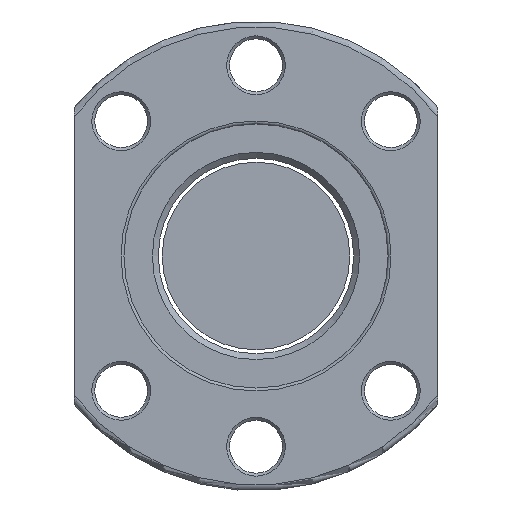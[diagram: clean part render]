
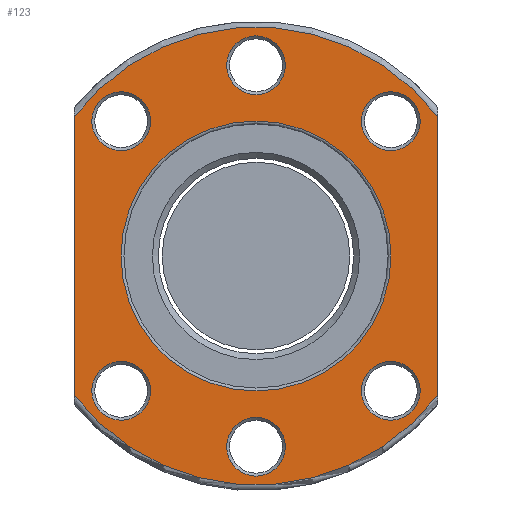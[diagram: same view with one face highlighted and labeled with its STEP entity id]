
A CAD part, front view. The second image highlights one B-rep face of the part: STEP entity #123.
In plain terms, the highlighted planar face has unit normal (0, -1, 0).
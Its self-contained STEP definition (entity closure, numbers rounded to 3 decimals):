
#54=LINE('',#924,#62);
#58=LINE('',#1046,#66);
#62=VECTOR('',#738,1.);
#66=VECTOR('',#780,1.);
#94=PLANE('',#675);
#123=ADVANCED_FACE('',(#188,#189,#190,#191,#192,#193,#194,#195),#94,.F.);
#188=FACE_BOUND('',#272,.T.);
#189=FACE_BOUND('',#273,.T.);
#190=FACE_BOUND('',#274,.T.);
#191=FACE_BOUND('',#275,.T.);
#192=FACE_BOUND('',#276,.T.);
#193=FACE_BOUND('',#277,.T.);
#194=FACE_BOUND('',#278,.T.);
#195=FACE_BOUND('',#279,.T.);
#272=EDGE_LOOP('',(#383));
#273=EDGE_LOOP('',(#384));
#274=EDGE_LOOP('',(#385));
#275=EDGE_LOOP('',(#386));
#276=EDGE_LOOP('',(#387));
#277=EDGE_LOOP('',(#388));
#278=EDGE_LOOP('',(#389));
#279=EDGE_LOOP('',(#390,#391,#392,#393));
#383=ORIENTED_EDGE('',*,*,#556,.T.);
#384=ORIENTED_EDGE('',*,*,#557,.T.);
#385=ORIENTED_EDGE('',*,*,#558,.T.);
#386=ORIENTED_EDGE('',*,*,#559,.T.);
#387=ORIENTED_EDGE('',*,*,#560,.T.);
#388=ORIENTED_EDGE('',*,*,#561,.T.);
#389=ORIENTED_EDGE('',*,*,#562,.T.);
#390=ORIENTED_EDGE('',*,*,#540,.F.);
#391=ORIENTED_EDGE('',*,*,#563,.T.);
#392=ORIENTED_EDGE('',*,*,#519,.F.);
#393=ORIENTED_EDGE('',*,*,#564,.T.);
#464=VERTEX_POINT('',#925);
#465=VERTEX_POINT('',#926);
#482=VERTEX_POINT('',#1045);
#483=VERTEX_POINT('',#1047);
#495=VERTEX_POINT('',#1123);
#496=VERTEX_POINT('',#1125);
#497=VERTEX_POINT('',#1127);
#498=VERTEX_POINT('',#1129);
#499=VERTEX_POINT('',#1131);
#500=VERTEX_POINT('',#1133);
#501=VERTEX_POINT('',#1135);
#519=EDGE_CURVE('',#464,#465,#54,.T.);
#540=EDGE_CURVE('',#482,#483,#58,.T.);
#556=EDGE_CURVE('',#495,#495,#603,.T.);
#557=EDGE_CURVE('',#496,#496,#604,.T.);
#558=EDGE_CURVE('',#497,#497,#605,.T.);
#559=EDGE_CURVE('',#498,#498,#606,.T.);
#560=EDGE_CURVE('',#499,#499,#607,.T.);
#561=EDGE_CURVE('',#500,#500,#608,.T.);
#562=EDGE_CURVE('',#501,#501,#609,.T.);
#563=EDGE_CURVE('',#482,#465,#610,.T.);
#564=EDGE_CURVE('',#464,#483,#611,.T.);
#603=CIRCLE('',#666,23.);
#604=CIRCLE('',#667,5.);
#605=CIRCLE('',#668,5.);
#606=CIRCLE('',#669,5.);
#607=CIRCLE('',#670,5.);
#608=CIRCLE('',#671,5.);
#609=CIRCLE('',#672,5.);
#610=CIRCLE('',#673,39.);
#611=CIRCLE('',#674,39.);
#666=AXIS2_PLACEMENT_3D('',#1122,#810,#811);
#667=AXIS2_PLACEMENT_3D('',#1124,#812,#813);
#668=AXIS2_PLACEMENT_3D('',#1126,#814,#815);
#669=AXIS2_PLACEMENT_3D('',#1128,#816,#817);
#670=AXIS2_PLACEMENT_3D('',#1130,#818,#819);
#671=AXIS2_PLACEMENT_3D('',#1132,#820,#821);
#672=AXIS2_PLACEMENT_3D('',#1134,#822,#823);
#673=AXIS2_PLACEMENT_3D('',#1136,#824,#825);
#674=AXIS2_PLACEMENT_3D('',#1137,#826,#827);
#675=AXIS2_PLACEMENT_3D('',#1138,#828,#829);
#738=DIRECTION('',(0.,0.,-1.));
#780=DIRECTION('',(0.,0.,1.));
#810=DIRECTION('',(0.,1.,0.));
#811=DIRECTION('',(0.,0.,1.));
#812=DIRECTION('',(0.,1.,0.));
#813=DIRECTION('',(0.,0.,1.));
#814=DIRECTION('',(0.,1.,0.));
#815=DIRECTION('',(0.,0.,1.));
#816=DIRECTION('',(0.,1.,0.));
#817=DIRECTION('',(0.,0.,1.));
#818=DIRECTION('',(0.,1.,0.));
#819=DIRECTION('',(0.,0.,1.));
#820=DIRECTION('',(0.,1.,0.));
#821=DIRECTION('',(0.,0.,1.));
#822=DIRECTION('',(0.,1.,0.));
#823=DIRECTION('',(0.,0.,1.));
#824=DIRECTION('',(0.,-1.,0.));
#825=DIRECTION('',(0.,0.,1.));
#826=DIRECTION('',(0.,-1.,0.));
#827=DIRECTION('',(0.,0.,1.));
#828=DIRECTION('',(0.,1.,0.));
#829=DIRECTION('',(0.,0.,1.));
#924=CARTESIAN_POINT('',(31.,0.,25.278));
#925=CARTESIAN_POINT('',(31.,0.,23.664));
#926=CARTESIAN_POINT('',(31.,0.,-23.664));
#1045=CARTESIAN_POINT('',(-31.,0.,-23.664));
#1046=CARTESIAN_POINT('',(-31.,0.,-25.278));
#1047=CARTESIAN_POINT('',(-31.,0.,23.664));
#1122=CARTESIAN_POINT('',(0.,0.,0.));
#1123=CARTESIAN_POINT('',(0.,0.,23.));
#1124=CARTESIAN_POINT('',(0.,0.,-32.5));
#1125=CARTESIAN_POINT('',(0.,0.,-27.5));
#1126=CARTESIAN_POINT('',(-22.981,0.,22.981));
#1127=CARTESIAN_POINT('',(-22.981,0.,27.981));
#1128=CARTESIAN_POINT('',(-22.981,0.,-22.981));
#1129=CARTESIAN_POINT('',(-22.981,0.,-17.981));
#1130=CARTESIAN_POINT('',(22.981,0.,-22.981));
#1131=CARTESIAN_POINT('',(22.981,0.,-17.981));
#1132=CARTESIAN_POINT('',(22.981,0.,22.981));
#1133=CARTESIAN_POINT('',(22.981,0.,27.981));
#1134=CARTESIAN_POINT('',(0.,0.,32.5));
#1135=CARTESIAN_POINT('',(0.,0.,37.5));
#1136=CARTESIAN_POINT('',(0.,0.,0.));
#1137=CARTESIAN_POINT('',(0.,0.,0.));
#1138=CARTESIAN_POINT('',(0.,0.,0.));
